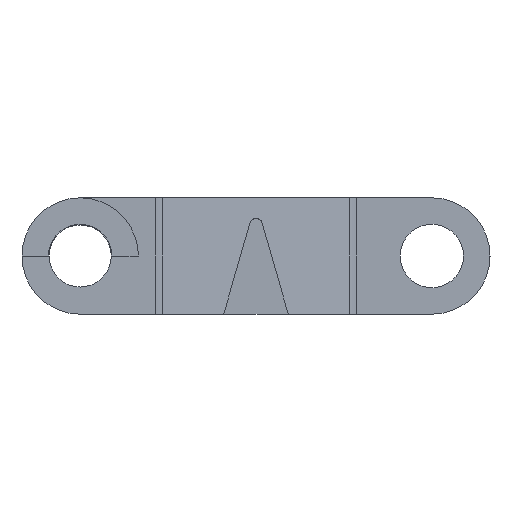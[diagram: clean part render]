
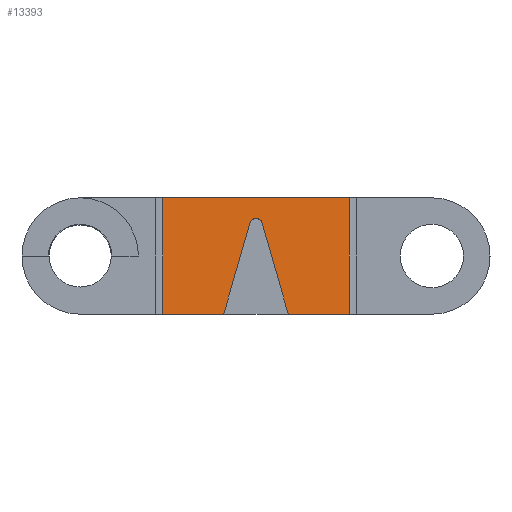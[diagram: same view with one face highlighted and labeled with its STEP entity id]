
A CAD part, front view. The second image highlights one B-rep face of the part: STEP entity #13393.
In plain terms, the highlighted planar face has unit normal (0.113, -0.994, 0).
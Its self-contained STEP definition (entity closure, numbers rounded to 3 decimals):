
#1428=CARTESIAN_POINT('Vertex',(7.219,-71.632,-4.5)) ;
#1431=CARTESIAN_POINT('Line Origine',(4.86,-71.899,-4.5)) ;
#1435=CARTESIAN_POINT('Vertex',(2.5,-72.167,-4.5)) ;
#1456=CARTESIAN_POINT('Vertex',(-2.5,-72.733,-4.5)) ;
#1459=CARTESIAN_POINT('Line Origine',(-4.86,-73.001,-4.5)) ;
#1463=CARTESIAN_POINT('Vertex',(-7.219,-73.268,-4.5)) ;
#11295=CARTESIAN_POINT('Line Origine',(-1.49,-72.619,-0.981)) ;
#11299=CARTESIAN_POINT('Vertex',(-0.481,-72.504,2.538)) ;
#11467=CARTESIAN_POINT('Vertex',(0.481,-72.396,2.538)) ;
#11471=CARTESIAN_POINT('Control Point',(-0.481,-72.504,2.538)) ;
#11472=CARTESIAN_POINT('Control Point',(-0.409,-72.496,2.787)) ;
#11473=CARTESIAN_POINT('Control Point',(-0.177,-72.47,2.992)) ;
#11474=CARTESIAN_POINT('Control Point',(0.177,-72.43,2.992)) ;
#11475=CARTESIAN_POINT('Control Point',(0.409,-72.404,2.787)) ;
#11476=CARTESIAN_POINT('Control Point',(0.481,-72.396,2.538)) ;
#11660=CARTESIAN_POINT('Line Origine',(1.49,-72.281,-0.981)) ;
#13256=CARTESIAN_POINT('Line Origine',(0.,-72.45,4.5)) ;
#13260=CARTESIAN_POINT('Vertex',(-7.219,-73.268,4.5)) ;
#13262=CARTESIAN_POINT('Vertex',(7.219,-71.632,4.5)) ;
#13368=CARTESIAN_POINT('Axis2P3D Location',(-7.5,-73.3,0.)) ;
#13373=CARTESIAN_POINT('Line Origine',(7.219,-71.632,0.)) ;
#13378=CARTESIAN_POINT('Line Origine',(-7.219,-73.268,0.)) ;
#1432=DIRECTION('Vector Direction',(0.994,0.113,0.)) ;
#1460=DIRECTION('Vector Direction',(0.994,0.113,0.)) ;
#11296=DIRECTION('Vector Direction',(0.276,0.031,0.961)) ;
#11661=DIRECTION('Vector Direction',(-0.276,-0.031,0.961)) ;
#13257=DIRECTION('Vector Direction',(0.994,0.113,0.)) ;
#13369=DIRECTION('Axis2P3D Direction',(0.113,-0.994,0.)) ;
#13370=DIRECTION('Axis2P3D XDirection',(0.994,0.113,0.)) ;
#13374=DIRECTION('Vector Direction',(0.,0.,1.)) ;
#13379=DIRECTION('Vector Direction',(0.,0.,1.)) ;
#13371=AXIS2_PLACEMENT_3D('Plane Axis2P3D',#13368,#13369,#13370) ;
#13384=ORIENTED_EDGE('',*,*,#1437,.T.) ;
#13385=ORIENTED_EDGE('',*,*,#13377,.F.) ;
#13386=ORIENTED_EDGE('',*,*,#13264,.F.) ;
#13387=ORIENTED_EDGE('',*,*,#13382,.F.) ;
#13388=ORIENTED_EDGE('',*,*,#1465,.T.) ;
#13389=ORIENTED_EDGE('',*,*,#11301,.T.) ;
#13390=ORIENTED_EDGE('',*,*,#11477,.T.) ;
#13391=ORIENTED_EDGE('',*,*,#11664,.F.) ;
#1433=VECTOR('Line Direction',#1432,1.) ;
#1461=VECTOR('Line Direction',#1460,1.) ;
#11297=VECTOR('Line Direction',#11296,1.) ;
#11662=VECTOR('Line Direction',#11661,1.) ;
#13258=VECTOR('Line Direction',#13257,1.) ;
#13375=VECTOR('Line Direction',#13374,1.) ;
#13380=VECTOR('Line Direction',#13379,1.) ;
#13393=ADVANCED_FACE('PartBody',(#13392),#13372,.T.) ;
#11470=B_SPLINE_CURVE_WITH_KNOTS('',5,(#11471,#11472,#11473,#11474,#11475,#11476),.UNSPECIFIED.,.F.,.U.,(6,6),(0.,1.833),.UNSPECIFIED.) ;
#1437=EDGE_CURVE('',#1436,#1429,#1434,.T.) ;
#1465=EDGE_CURVE('',#1464,#1457,#1462,.T.) ;
#11301=EDGE_CURVE('',#1457,#11300,#11298,.T.) ;
#11477=EDGE_CURVE('',#11300,#11468,#11470,.T.) ;
#11664=EDGE_CURVE('',#1436,#11468,#11663,.T.) ;
#13264=EDGE_CURVE('',#13261,#13263,#13259,.T.) ;
#13377=EDGE_CURVE('',#13263,#1429,#13376,.F.) ;
#13382=EDGE_CURVE('',#1464,#13261,#13381,.T.) ;
#13383=EDGE_LOOP('',(#13384,#13385,#13386,#13387,#13388,#13389,#13390,#13391)) ;
#13392=FACE_OUTER_BOUND('',#13383,.T.) ;
#1434=LINE('Line',#1431,#1433) ;
#1462=LINE('Line',#1459,#1461) ;
#11298=LINE('Line',#11295,#11297) ;
#11663=LINE('Line',#11660,#11662) ;
#13259=LINE('Line',#13256,#13258) ;
#13376=LINE('Line',#13373,#13375) ;
#13381=LINE('Line',#13378,#13380) ;
#13372=PLANE('',#13371) ;
#1429=VERTEX_POINT('',#1428) ;
#1436=VERTEX_POINT('',#1435) ;
#1457=VERTEX_POINT('',#1456) ;
#1464=VERTEX_POINT('',#1463) ;
#11300=VERTEX_POINT('',#11299) ;
#11468=VERTEX_POINT('',#11467) ;
#13261=VERTEX_POINT('',#13260) ;
#13263=VERTEX_POINT('',#13262) ;
